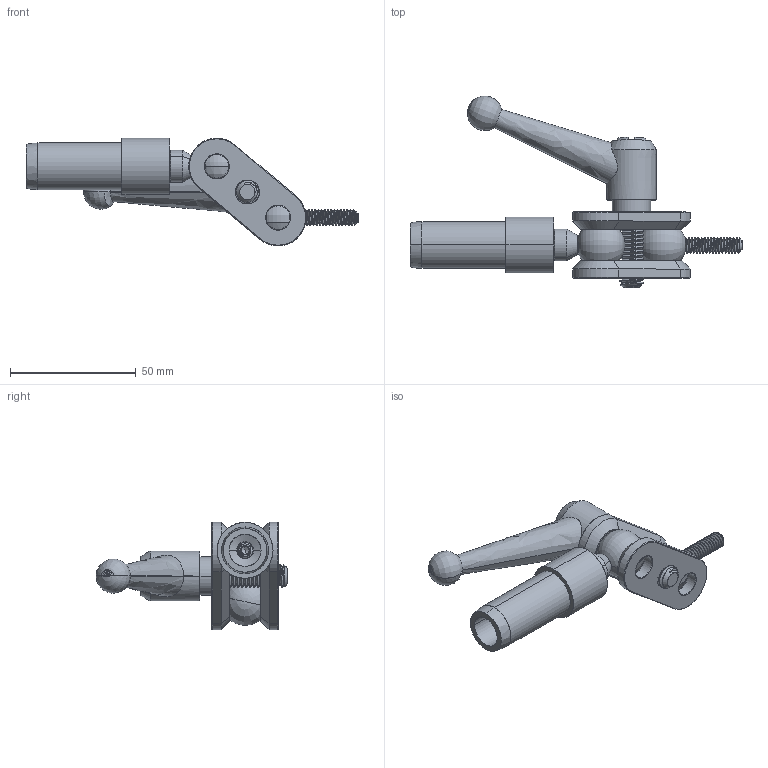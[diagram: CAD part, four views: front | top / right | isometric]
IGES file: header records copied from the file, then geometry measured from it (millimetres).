
Start section: SolidWorks IGES file using analytic representation for surfaces
Global section: file name: \\SERVER3\Design\_New Design Drive Folder List\_Design Vault\AAI\Modular Round Tube Connectors\Solidworks Models\STP Files\12202013\0.750 Inch Modular Connectors\Assemblies\0.75 Inch Adjustable Swivel Mount Connector.IGS; native system: SolidWorks 2013; preprocessor: SolidWorks 2013; author: tbraun; date: 140109.103515; units: inch
Bounding box: 131.85 x 76.2 x 42.76 mm (x, y, z)
Surface area: 24544.3 mm2 (no closed solid volume)
Topology: 0 solids, 0 shells, 466 faces, 7974 edges, 7959 vertices
Faces by surface type: revolution 335, bspline 131
